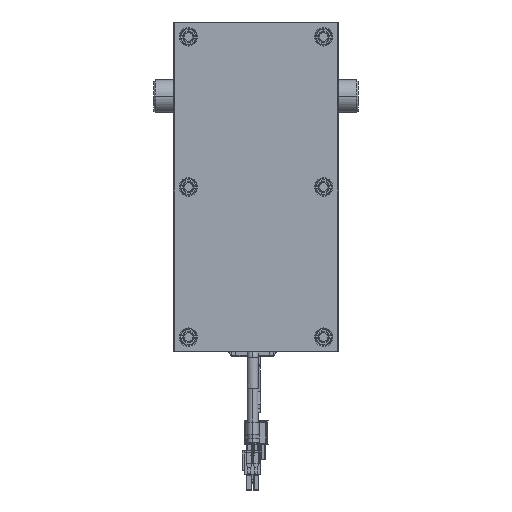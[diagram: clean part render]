
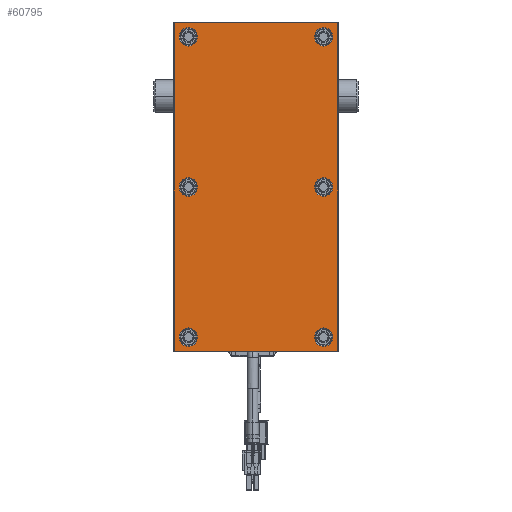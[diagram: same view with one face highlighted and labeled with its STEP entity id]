
A CAD part, front view. The second image highlights one B-rep face of the part: STEP entity #60795.
In plain terms, the highlighted planar face has unit normal (0, -1, 0).
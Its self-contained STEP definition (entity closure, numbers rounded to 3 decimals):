
#59384=CARTESIAN_POINT('',(99.,-7.,-49.));
#59385=DIRECTION('',(0.,-1.,0.));
#59386=DIRECTION('',(0.,0.,-1.));
#59387=AXIS2_PLACEMENT_3D('',#59384,#59385,#59386);
#59389=DIRECTION('',(1.,0.,0.));
#59390=VECTOR('',#59389,198.);
#59391=CARTESIAN_POINT('',(-99.,-7.,
-49.5));
#59392=LINE('',#59391,#59390);
#59393=CARTESIAN_POINT('',(-99.,-7.,-49.));
#59394=DIRECTION('',(0.,-1.,0.));
#59395=DIRECTION('',(-1.,0.,0.));
#59396=AXIS2_PLACEMENT_3D('',#59393,#59394,#59395);
#59398=DIRECTION('',(0.,0.,-1.));
#59399=VECTOR('',#59398,98.);
#59400=CARTESIAN_POINT('',(-99.5,-7.,
49.));
#59401=LINE('',#59400,#59399);
#59402=CARTESIAN_POINT('',(-99.,-7.,49.));
#59403=DIRECTION('',(0.,-1.,0.));
#59404=DIRECTION('',(0.,0.,1.));
#59405=AXIS2_PLACEMENT_3D('',#59402,#59403,#59404);
#59407=DIRECTION('',(-1.,0.,0.));
#59408=VECTOR('',#59407,198.);
#59409=CARTESIAN_POINT('',(99.,-7.,
49.5));
#59410=LINE('',#59409,#59408);
#59411=CARTESIAN_POINT('',(99.,-7.,49.));
#59412=DIRECTION('',(0.,-1.,0.));
#59413=DIRECTION('',(1.,0.,0.));
#59414=AXIS2_PLACEMENT_3D('',#59411,#59412,#59413);
#59416=DIRECTION('',(0.,0.,1.));
#59417=VECTOR('',#59416,98.);
#59418=CARTESIAN_POINT('',(99.5,-7.,
-49.));
#59419=LINE('',#59418,#59417);
#59420=CARTESIAN_POINT('',(-91.,-7.,-41.));
#59421=DIRECTION('',(0.,1.,0.));
#59422=DIRECTION('',(1.,0.,0.));
#59423=AXIS2_PLACEMENT_3D('',#59420,#59421,#59422);
#59425=CARTESIAN_POINT('',(-91.,-7.,-41.));
#59426=DIRECTION('',(0.,1.,0.));
#59427=DIRECTION('',(-1.,0.,0.));
#59428=AXIS2_PLACEMENT_3D('',#59425,#59426,#59427);
#59430=CARTESIAN_POINT('',(0.,-7.,-41.));
#59431=DIRECTION('',(0.,1.,0.));
#59432=DIRECTION('',(1.,0.,0.));
#59433=AXIS2_PLACEMENT_3D('',#59430,#59431,#59432);
#59435=CARTESIAN_POINT('',(0.,-7.,-41.));
#59436=DIRECTION('',(0.,1.,0.));
#59437=DIRECTION('',(-1.,0.,0.));
#59438=AXIS2_PLACEMENT_3D('',#59435,#59436,#59437);
#59440=CARTESIAN_POINT('',(91.,-7.,-41.));
#59441=DIRECTION('',(0.,1.,0.));
#59442=DIRECTION('',(1.,0.,0.));
#59443=AXIS2_PLACEMENT_3D('',#59440,#59441,#59442);
#59445=CARTESIAN_POINT('',(91.,-7.,-41.));
#59446=DIRECTION('',(0.,1.,0.));
#59447=DIRECTION('',(-1.,0.,0.));
#59448=AXIS2_PLACEMENT_3D('',#59445,#59446,#59447);
#59450=CARTESIAN_POINT('',(91.,-7.,41.));
#59451=DIRECTION('',(0.,1.,0.));
#59452=DIRECTION('',(1.,0.,0.));
#59453=AXIS2_PLACEMENT_3D('',#59450,#59451,#59452);
#59455=CARTESIAN_POINT('',(91.,-7.,41.));
#59456=DIRECTION('',(0.,1.,0.));
#59457=DIRECTION('',(-1.,0.,0.));
#59458=AXIS2_PLACEMENT_3D('',#59455,#59456,#59457);
#59460=CARTESIAN_POINT('',(0.,-7.,41.));
#59461=DIRECTION('',(0.,1.,0.));
#59462=DIRECTION('',(1.,0.,0.));
#59463=AXIS2_PLACEMENT_3D('',#59460,#59461,#59462);
#59465=CARTESIAN_POINT('',(0.,-7.,41.));
#59466=DIRECTION('',(0.,1.,0.));
#59467=DIRECTION('',(-1.,0.,0.));
#59468=AXIS2_PLACEMENT_3D('',#59465,#59466,#59467);
#59470=CARTESIAN_POINT('',(-91.,-7.,41.));
#59471=DIRECTION('',(0.,1.,0.));
#59472=DIRECTION('',(1.,0.,0.));
#59473=AXIS2_PLACEMENT_3D('',#59470,#59471,#59472);
#59475=CARTESIAN_POINT('',(-91.,-7.,41.));
#59476=DIRECTION('',(0.,1.,0.));
#59477=DIRECTION('',(-1.,0.,0.));
#59478=AXIS2_PLACEMENT_3D('',#59475,#59476,#59477);
#60536=CARTESIAN_POINT('',(99.,-7.,-49.5));
#60537=CARTESIAN_POINT('',(99.5,-7.,-49.));
#60538=VERTEX_POINT('',#60536);
#60539=VERTEX_POINT('',#60537);
#60544=CARTESIAN_POINT('',(99.5,-7.,
49.));
#60545=VERTEX_POINT('',#60544);
#60548=CARTESIAN_POINT('',(99.,-7.,49.5));
#60549=VERTEX_POINT('',#60548);
#60552=CARTESIAN_POINT('',(-99.,-7.,
49.5));
#60553=VERTEX_POINT('',#60552);
#60556=CARTESIAN_POINT('',(-99.5,-7.,49.));
#60557=VERTEX_POINT('',#60556);
#60560=CARTESIAN_POINT('',(-99.5,-7.,
-49.));
#60561=VERTEX_POINT('',#60560);
#60564=CARTESIAN_POINT('',(-99.,-7.,-49.5));
#60565=VERTEX_POINT('',#60564);
#60592=CARTESIAN_POINT('',(-85.45,-7.,-41.));
#60593=CARTESIAN_POINT('',(-96.55,-7.,-41.));
#60594=VERTEX_POINT('',#60592);
#60595=VERTEX_POINT('',#60593);
#60608=CARTESIAN_POINT('',(5.55,-7.,-41.));
#60609=CARTESIAN_POINT('',(-5.55,-7.,-41.));
#60610=VERTEX_POINT('',#60608);
#60611=VERTEX_POINT('',#60609);
#60632=CARTESIAN_POINT('',(96.55,-7.,-41.));
#60633=CARTESIAN_POINT('',(85.45,-7.,-41.));
#60634=VERTEX_POINT('',#60632);
#60635=VERTEX_POINT('',#60633);
#60648=CARTESIAN_POINT('',(96.55,-7.,41.));
#60649=CARTESIAN_POINT('',(85.45,-7.,41.));
#60650=VERTEX_POINT('',#60648);
#60651=VERTEX_POINT('',#60649);
#60656=CARTESIAN_POINT('',(5.55,-7.,41.));
#60657=CARTESIAN_POINT('',(-5.55,-7.,41.));
#60658=VERTEX_POINT('',#60656);
#60659=VERTEX_POINT('',#60657);
#60680=CARTESIAN_POINT('',(-85.45,-7.,41.));
#60681=CARTESIAN_POINT('',(-96.55,-7.,41.));
#60682=VERTEX_POINT('',#60680);
#60683=VERTEX_POINT('',#60681);
#60736=CARTESIAN_POINT('',(0.,-7.,0.));
#60737=DIRECTION('',(0.,1.,0.));
#60738=DIRECTION('',(1.,0.,0.));
#60739=AXIS2_PLACEMENT_3D('',#60736,#60737,#60738);
#60740=PLANE('',#60739);
#60742=ORIENTED_EDGE('',*,*,#60741,.F.);
#60744=ORIENTED_EDGE('',*,*,#60743,.F.);
#60746=ORIENTED_EDGE('',*,*,#60745,.F.);
#60748=ORIENTED_EDGE('',*,*,#60747,.F.);
#60750=ORIENTED_EDGE('',*,*,#60749,.F.);
#60752=ORIENTED_EDGE('',*,*,#60751,.F.);
#60754=ORIENTED_EDGE('',*,*,#60753,.F.);
#60756=ORIENTED_EDGE('',*,*,#60755,.F.);
#60757=EDGE_LOOP('',(#60742,#60744,#60746,#60748,#60750,#60752,#60754,#60756));
#60758=FACE_OUTER_BOUND('',#60757,.F.);
#60760=ORIENTED_EDGE('',*,*,#60759,.F.);
#60762=ORIENTED_EDGE('',*,*,#60761,.F.);
#60763=EDGE_LOOP('',(#60760,#60762));
#60764=FACE_BOUND('',#60763,.F.);
#60766=ORIENTED_EDGE('',*,*,#60765,.F.);
#60768=ORIENTED_EDGE('',*,*,#60767,.F.);
#60769=EDGE_LOOP('',(#60766,#60768));
#60770=FACE_BOUND('',#60769,.F.);
#60772=ORIENTED_EDGE('',*,*,#60771,.F.);
#60774=ORIENTED_EDGE('',*,*,#60773,.F.);
#60775=EDGE_LOOP('',(#60772,#60774));
#60776=FACE_BOUND('',#60775,.F.);
#60778=ORIENTED_EDGE('',*,*,#60777,.F.);
#60780=ORIENTED_EDGE('',*,*,#60779,.F.);
#60781=EDGE_LOOP('',(#60778,#60780));
#60782=FACE_BOUND('',#60781,.F.);
#60784=ORIENTED_EDGE('',*,*,#60783,.F.);
#60786=ORIENTED_EDGE('',*,*,#60785,.F.);
#60787=EDGE_LOOP('',(#60784,#60786));
#60788=FACE_BOUND('',#60787,.F.);
#60790=ORIENTED_EDGE('',*,*,#60789,.F.);
#60792=ORIENTED_EDGE('',*,*,#60791,.F.);
#60793=EDGE_LOOP('',(#60790,#60792));
#60794=FACE_BOUND('',#60793,.F.);
#60795=ADVANCED_FACE('',(#60758,#60764,#60770,#60776,#60782,#60788,#60794),
#60740,.F.);
#59388=CIRCLE('',#59387,0.5);
#59397=CIRCLE('',#59396,0.5);
#59406=CIRCLE('',#59405,0.5);
#59415=CIRCLE('',#59414,0.5);
#59424=CIRCLE('',#59423,5.55);
#59429=CIRCLE('',#59428,5.55);
#59434=CIRCLE('',#59433,5.55);
#59439=CIRCLE('',#59438,5.55);
#59444=CIRCLE('',#59443,5.55);
#59449=CIRCLE('',#59448,5.55);
#59454=CIRCLE('',#59453,5.55);
#59459=CIRCLE('',#59458,5.55);
#59464=CIRCLE('',#59463,5.55);
#59469=CIRCLE('',#59468,5.55);
#59474=CIRCLE('',#59473,5.55);
#59479=CIRCLE('',#59478,5.55);
#60741=EDGE_CURVE('',#60538,#60539,#59388,.T.);
#60743=EDGE_CURVE('',#60565,#60538,#59392,.T.);
#60745=EDGE_CURVE('',#60561,#60565,#59397,.T.);
#60747=EDGE_CURVE('',#60557,#60561,#59401,.T.);
#60749=EDGE_CURVE('',#60553,#60557,#59406,.T.);
#60751=EDGE_CURVE('',#60549,#60553,#59410,.T.);
#60753=EDGE_CURVE('',#60545,#60549,#59415,.T.);
#60755=EDGE_CURVE('',#60539,#60545,#59419,.T.);
#60759=EDGE_CURVE('',#60594,#60595,#59424,.T.);
#60761=EDGE_CURVE('',#60595,#60594,#59429,.T.);
#60765=EDGE_CURVE('',#60610,#60611,#59434,.T.);
#60767=EDGE_CURVE('',#60611,#60610,#59439,.T.);
#60771=EDGE_CURVE('',#60634,#60635,#59444,.T.);
#60773=EDGE_CURVE('',#60635,#60634,#59449,.T.);
#60777=EDGE_CURVE('',#60650,#60651,#59454,.T.);
#60779=EDGE_CURVE('',#60651,#60650,#59459,.T.);
#60783=EDGE_CURVE('',#60658,#60659,#59464,.T.);
#60785=EDGE_CURVE('',#60659,#60658,#59469,.T.);
#60789=EDGE_CURVE('',#60682,#60683,#59474,.T.);
#60791=EDGE_CURVE('',#60683,#60682,#59479,.T.);
